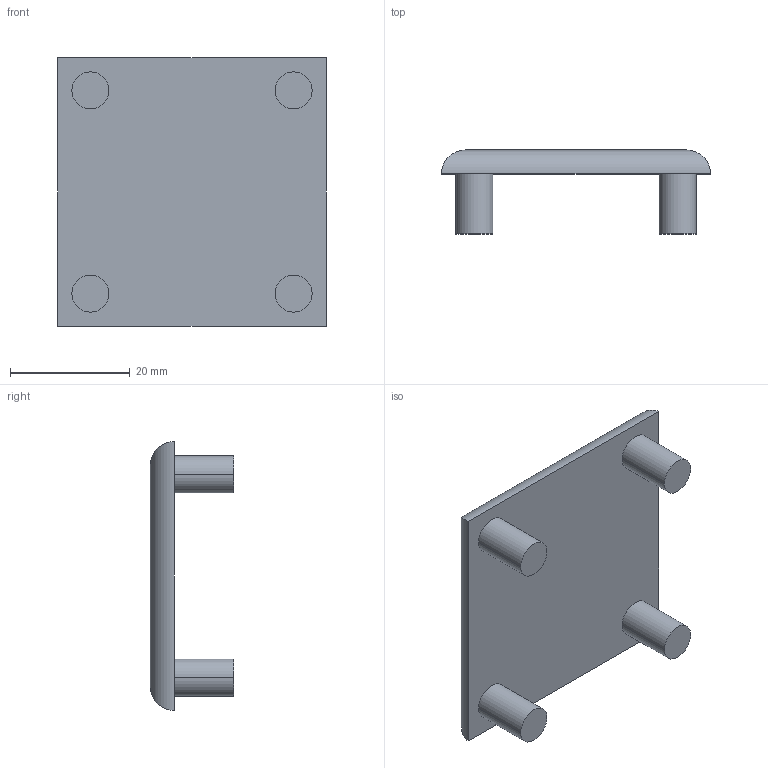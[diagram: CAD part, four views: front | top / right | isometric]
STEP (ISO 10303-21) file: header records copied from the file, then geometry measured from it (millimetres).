
FILE_DESCRIPTION((''),'2;1');
FILE_NAME('TAC454510','2002-12-27T',('Lipro doo'),('Lipro d.o.o.'),'PRO/ENGINEER BY PARAMETRIC TECHNOLOGY CORPORATION, 2001150','PRO/ENGINEER BY PARAMETRIC TECHNOLOGY CORPORATION, 2001150','');
FILE_SCHEMA(('CONFIG_CONTROL_DESIGN'));
Length unit declared in the file: millimetre
Products named in the file (1): TAC454510
Bounding box: 45 x 14 x 45 mm (x, y, z)
Volume: 8714.1 mm3; surface area: 5231 mm2
Topology: 1 solids, 1 shells, 18 faces, 36 edges, 24 vertices
Faces by surface type: cylinder 12, plane 6
Entity records: 558 total; most frequent: CARTESIAN_POINT 130, DIRECTION 84, ORIENTED_EDGE 72, EDGE_CURVE 36, AXIS2_PLACEMENT_3D 34, VERTEX_POINT 24, EDGE_LOOP 22, FACE_OUTER_BOUND 18
